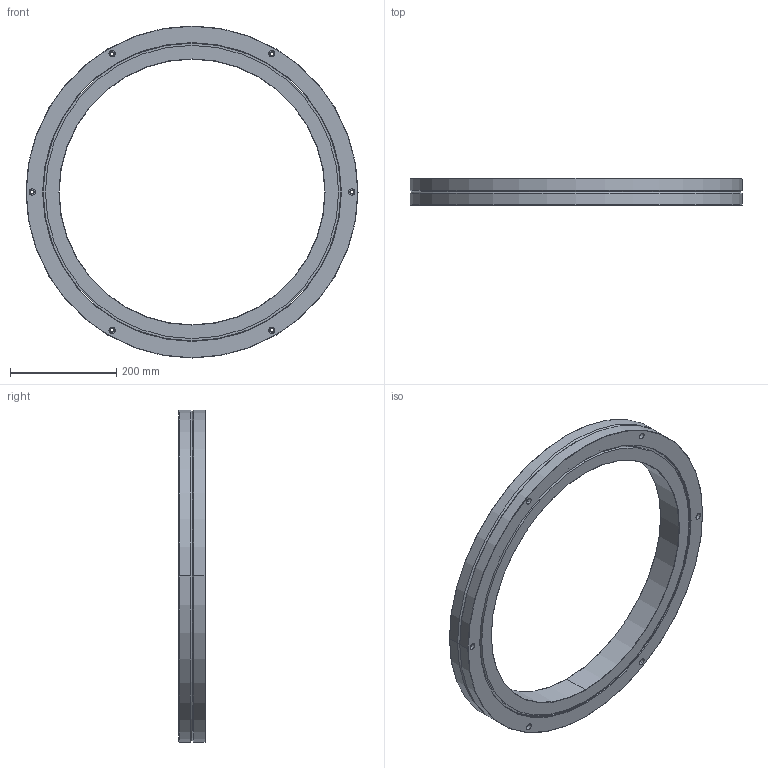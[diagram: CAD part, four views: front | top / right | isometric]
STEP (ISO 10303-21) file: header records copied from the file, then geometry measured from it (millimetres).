
FILE_DESCRIPTION((''),'2;1');
FILE_NAME('RB50050','2015-08-28T',('Administrator'),(''),'PRO/ENGINEER BY PARAMETRIC TECHNOLOGY CORPORATION, 2010180','PRO/ENGINEER BY PARAMETRIC TECHNOLOGY CORPORATION, 2010180','');
FILE_SCHEMA(('AUTOMOTIVE_DESIGN_CC2 { 1 2 10303 214 -1 1 5 2 }'));
Length unit declared in the file: millimetre
Products named in the file (1): RB50050
Bounding box: 625 x 50 x 625 mm (x, y, z)
Volume: 4628127.7 mm3; surface area: 654463.7 mm2
Topology: 2 solids, 2 shells, 104 faces, 220 edges, 138 vertices
Faces by surface type: cylinder 62, plane 22, cone 12, torus 8
Entity records: 2965 total; most frequent: DIRECTION 574, CARTESIAN_POINT 462, ORIENTED_EDGE 440, AXIS2_PLACEMENT_3D 250, EDGE_CURVE 220, CIRCLE 146, VERTEX_POINT 138, EDGE_LOOP 138
